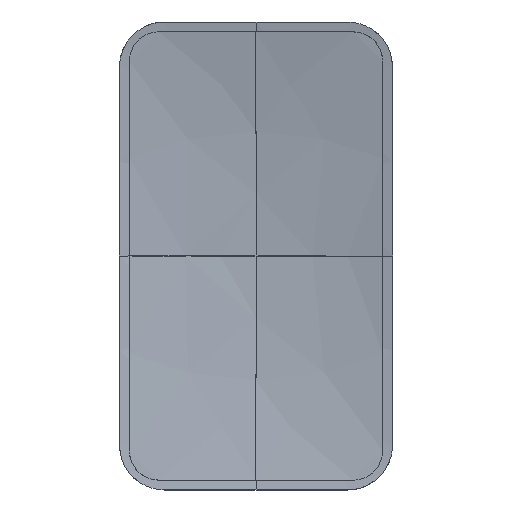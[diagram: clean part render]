
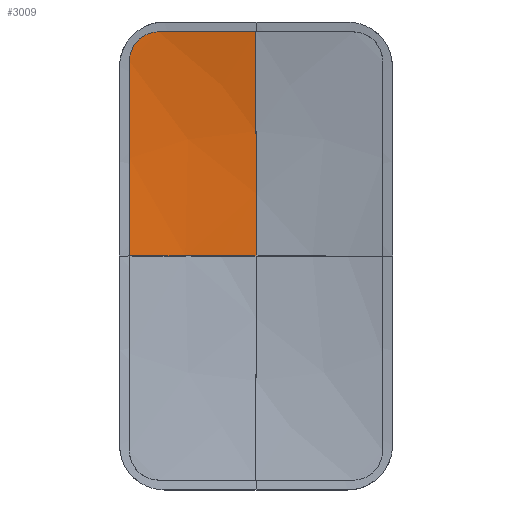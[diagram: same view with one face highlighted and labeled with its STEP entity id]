
A CAD part, front view. The second image highlights one B-rep face of the part: STEP entity #3009.
In plain terms, the highlighted free-form (B-spline) face has degree [3, 3] with [5, 5] control points.
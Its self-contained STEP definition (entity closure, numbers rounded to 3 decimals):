
#2200=CARTESIAN_POINT('',(-249.502,-111.583,
574.575));
#2201=CARTESIAN_POINT('',(-232.913,-110.631,
574.569));
#2202=CARTESIAN_POINT('',(-199.715,-108.904,
574.558));
#2203=CARTESIAN_POINT('',(-149.854,-106.852,
574.544));
#2204=CARTESIAN_POINT('',(-99.947,-105.339,
574.533));
#2205=CARTESIAN_POINT('',(-49.992,-104.364,
574.523));
#2206=CARTESIAN_POINT('',(-16.668,-104.074,
574.518));
#2207=CARTESIAN_POINT('',(0.,-104.019,
574.516));
#2209=CARTESIAN_POINT('',(0.,-104.019,
574.516));
#2210=CARTESIAN_POINT('',(0.,-101.244,
560.847));
#2211=CARTESIAN_POINT('',(0.,-95.897,
533.518));
#2212=CARTESIAN_POINT('',(0.,-88.486,
492.573));
#2213=CARTESIAN_POINT('',(0.,-81.674,
451.625));
#2214=CARTESIAN_POINT('',(0.,-75.457,
410.654));
#2215=CARTESIAN_POINT('',(0.,-69.834,
369.663));
#2216=CARTESIAN_POINT('',(0.,-64.807,
328.667));
#2217=CARTESIAN_POINT('',(0.,-60.375,
287.675));
#2218=CARTESIAN_POINT('',(0.,-56.535,
246.661));
#2219=CARTESIAN_POINT('',(0.,-53.285,
205.61));
#2220=CARTESIAN_POINT('',(0.,-50.627,
164.543));
#2221=CARTESIAN_POINT('',(0.,-48.561,
123.47));
#2222=CARTESIAN_POINT('',(0.,-47.085,
82.383));
#2223=CARTESIAN_POINT('',(0.,-46.198,
41.245));
#2224=CARTESIAN_POINT('',(0.,-46.,13.757));
#2225=CARTESIAN_POINT('',(0.,-46.,0.));
#2227=CARTESIAN_POINT('',(-324.332,-83.215,
0.));
#2228=CARTESIAN_POINT('',(-324.335,-83.284,
20.886));
#2229=CARTESIAN_POINT('',(-324.34,-83.669,
62.652));
#2230=CARTESIAN_POINT('',(-324.351,-84.99,
125.278));
#2231=CARTESIAN_POINT('',(-324.364,-87.052,
187.858));
#2232=CARTESIAN_POINT('',(-324.378,-89.854,250.378));
#2233=CARTESIAN_POINT('',(-324.395,-93.396,
312.835));
#2234=CARTESIAN_POINT('',(-324.413,-97.677,
375.207));
#2235=CARTESIAN_POINT('',(-324.433,-102.695,
437.477));
#2236=CARTESIAN_POINT('',(-324.448,-106.53,
478.917));
#2237=CARTESIAN_POINT('',(-324.456,-108.57,
499.617));
#2239=CARTESIAN_POINT('',(-324.456,-108.57,
499.617));
#2240=CARTESIAN_POINT('',(-324.456,-108.714,
501.075));
#2241=CARTESIAN_POINT('',(-324.373,-108.993,
503.986));
#2242=CARTESIAN_POINT('',(-323.992,-109.39,
508.345));
#2243=CARTESIAN_POINT('',(-323.36,-109.763,
512.667));
#2244=CARTESIAN_POINT('',(-322.475,-110.114,
516.952));
#2245=CARTESIAN_POINT('',(-321.344,-110.442,
521.17));
#2246=CARTESIAN_POINT('',(-319.968,-110.747,
525.32));
#2247=CARTESIAN_POINT('',(-318.355,-111.029,
529.377));
#2248=CARTESIAN_POINT('',(-316.506,-111.289,
533.336));
#2249=CARTESIAN_POINT('',(-314.432,-111.526,
537.178));
#2250=CARTESIAN_POINT('',(-312.138,-111.74,
540.893));
#2251=CARTESIAN_POINT('',(-309.63,-111.932,
544.469));
#2252=CARTESIAN_POINT('',(-306.922,-112.101,
547.888));
#2253=CARTESIAN_POINT('',(-304.016,-112.247,
551.148));
#2254=CARTESIAN_POINT('',(-300.931,-112.37,
554.228));
#2255=CARTESIAN_POINT('',(-297.666,-112.469,
557.127));
#2256=CARTESIAN_POINT('',(-294.245,-112.544,
559.827));
#2257=CARTESIAN_POINT('',(-290.668,-112.594,
562.326));
#2258=CARTESIAN_POINT('',(-286.956,-112.619,
564.61));
#2259=CARTESIAN_POINT('',(-283.118,-112.618,
566.675));
#2260=CARTESIAN_POINT('',(-279.164,-112.59,
568.514));
#2261=CARTESIAN_POINT('',(-275.116,-112.535,
570.117));
#2262=CARTESIAN_POINT('',(-270.976,-112.451,
571.485));
#2263=CARTESIAN_POINT('',(-266.771,-112.339,
572.608));
#2264=CARTESIAN_POINT('',(-262.501,-112.197,
573.487));
#2265=CARTESIAN_POINT('',(-258.194,-112.026,
574.114));
#2266=CARTESIAN_POINT('',(-253.852,-111.823,
574.492));
#2267=CARTESIAN_POINT('',(-250.954,-111.667,
574.575));
#2268=CARTESIAN_POINT('',(-249.502,-111.583,
574.575));
#2602=CARTESIAN_POINT('',(-324.332,-83.215,
0.));
#2603=CARTESIAN_POINT('',(-314.681,-80.971,
0.));
#2604=CARTESIAN_POINT('',(-295.33,-76.682,
0.));
#2605=CARTESIAN_POINT('',(-266.173,-70.853,
0.));
#2606=CARTESIAN_POINT('',(-236.891,-65.628,
0.));
#2607=CARTESIAN_POINT('',(-207.496,-61.011,
0.));
#2608=CARTESIAN_POINT('',(-178.004,-57.004,
0.));
#2609=CARTESIAN_POINT('',(-148.434,-53.612,
0.));
#2610=CARTESIAN_POINT('',(-118.805,-50.835,
0.));
#2611=CARTESIAN_POINT('',(-89.137,-48.676,
0.));
#2612=CARTESIAN_POINT('',(-59.441,-47.132,
0.));
#2613=CARTESIAN_POINT('',(-29.725,-46.206,
0.));
#2614=CARTESIAN_POINT('',(-9.908,-46.,0.));
#2615=CARTESIAN_POINT('',(0.,-46.,0.));
#2732=VERTEX_POINT('',#2200);
#2733=VERTEX_POINT('',#2207);
#2734=VERTEX_POINT('',#2239);
#2735=VERTEX_POINT('',#2227);
#2744=VERTEX_POINT('',#2615);
#2973=CARTESIAN_POINT('',(3.26,-46.012,
-5.777));
#2974=CARTESIAN_POINT('',(-56.18,-45.825,
-5.901));
#2975=CARTESIAN_POINT('',(-167.436,-52.455,
-6.017));
#2976=CARTESIAN_POINT('',(-277.094,-72.059,
-5.913));
#2977=CARTESIAN_POINT('',(-327.508,-83.944,
-5.816));
#2978=CARTESIAN_POINT('',(3.472,-45.757,96.225));
#2979=CARTESIAN_POINT('',(-55.943,-46.484,
96.078));
#2980=CARTESIAN_POINT('',(-167.147,-53.989,
95.922));
#2981=CARTESIAN_POINT('',(-277.011,-72.912,
95.987));
#2982=CARTESIAN_POINT('',(-327.627,-84.15,
96.065));
#2983=CARTESIAN_POINT('',(3.677,-55.756,292.038));
#2984=CARTESIAN_POINT('',(-55.694,-57.39,
291.945));
#2985=CARTESIAN_POINT('',(-166.796,-64.974,
291.888));
#2986=CARTESIAN_POINT('',(-277.05,-80.968,
292.05));
#2987=CARTESIAN_POINT('',(-328.052,-90.205,
292.173));
#2988=CARTESIAN_POINT('',(3.482,-85.976,486.807));
#2989=CARTESIAN_POINT('',(-55.844,-86.856,
486.849));
#2990=CARTESIAN_POINT('',(-166.844,-91.393,
487.04));
#2991=CARTESIAN_POINT('',(-277.492,-101.303,
487.451));
#2992=CARTESIAN_POINT('',(-328.885,-107.066,
487.691));
#2993=CARTESIAN_POINT('',(3.299,-105.167,580.174));
#2994=CARTESIAN_POINT('',(-56.005,-105.294,
580.277));
#2995=CARTESIAN_POINT('',(-166.956,-107.633,
580.583));
#2996=CARTESIAN_POINT('',(-277.796,-113.881,
581.111));
#2997=CARTESIAN_POINT('',(-329.378,-117.628,
581.406));
#2998=B_SPLINE_SURFACE_WITH_KNOTS('',3,3,((#2973,#2974,#2975,#2976,#2977),
(#2978,#2979,#2980,#2981,#2982),(#2983,#2984,#2985,#2986,#2987),(#2988,#2989,
#2990,#2991,#2992),(#2993,#2994,#2995,#2996,#2997)),.UNSPECIFIED.,.F.,.F.,.F.,
(4,1,4),(4,1,4),(-0.01,0.5,0.972),
(-0.009,0.5,0.944),.UNSPECIFIED.);
#2999=ORIENTED_EDGE('',*,*,#2790,.T.);
#3001=ORIENTED_EDGE('',*,*,#3000,.T.);
#3003=ORIENTED_EDGE('',*,*,#3002,.F.);
#3005=ORIENTED_EDGE('',*,*,#3004,.T.);
#3006=ORIENTED_EDGE('',*,*,#2966,.T.);
#3007=EDGE_LOOP('',(#2999,#3001,#3003,#3005,#3006));
#3008=FACE_OUTER_BOUND('',#3007,.F.);
#2208=B_SPLINE_CURVE_WITH_KNOTS('',3,(#2200,#2201,#2202,#2203,#2204,#2205,#2206,
#2207),.UNSPECIFIED.,.F.,.F.,(4,1,1,1,1,4),(0.,0.2,0.4,0.6,0.8,1.),
.UNSPECIFIED.);
#2226=B_SPLINE_CURVE_WITH_KNOTS('',3,(#2209,#2210,#2211,#2212,#2213,#2214,#2215,
#2216,#2217,#2218,#2219,#2220,#2221,#2222,#2223,#2224,#2225),.UNSPECIFIED.,.F.,
.F.,(4,1,1,1,1,1,1,1,1,1,1,1,1,1,4),(0.,0.071,0.143,
0.214,0.286,0.357,0.429,0.5,
0.571,0.643,0.714,0.786,
0.857,0.929,1.),.UNSPECIFIED.);
#2238=B_SPLINE_CURVE_WITH_KNOTS('',3,(#2227,#2228,#2229,#2230,#2231,#2232,#2233,
#2234,#2235,#2236,#2237),.UNSPECIFIED.,.F.,.F.,(4,1,1,1,1,1,1,1,4),(0.,
0.125,0.25,0.375,0.5,0.625,0.75,0.875,1.),.UNSPECIFIED.);
#2269=B_SPLINE_CURVE_WITH_KNOTS('',3,(#2239,#2240,#2241,#2242,#2243,#2244,#2245,
#2246,#2247,#2248,#2249,#2250,#2251,#2252,#2253,#2254,#2255,#2256,#2257,#2258,
#2259,#2260,#2261,#2262,#2263,#2264,#2265,#2266,#2267,#2268),.UNSPECIFIED.,.F.,
.F.,(4,1,1,1,1,1,1,1,1,1,1,1,1,1,1,1,1,1,1,1,1,1,1,1,1,1,1,4),(0.,
0.037,0.074,0.111,0.148,
0.185,0.222,0.259,0.296,
0.333,0.37,0.407,0.444,
0.481,0.519,0.556,0.593,
0.63,0.667,0.704,0.741,
0.778,0.815,0.852,0.889,
0.926,0.963,1.),.UNSPECIFIED.);
#2616=B_SPLINE_CURVE_WITH_KNOTS('',3,(#2602,#2603,#2604,#2605,#2606,#2607,#2608,
#2609,#2610,#2611,#2612,#2613,#2614,#2615),.UNSPECIFIED.,.F.,.F.,(4,1,1,1,1,1,1,
1,1,1,1,4),(0.,0.091,0.182,0.273,
0.364,0.455,0.545,0.636,
0.727,0.818,0.909,1.),.UNSPECIFIED.);
#2790=EDGE_CURVE('',#2732,#2733,#2208,.T.);
#2966=EDGE_CURVE('',#2734,#2732,#2269,.T.);
#3000=EDGE_CURVE('',#2733,#2744,#2226,.T.);
#3002=EDGE_CURVE('',#2735,#2744,#2616,.T.);
#3004=EDGE_CURVE('',#2735,#2734,#2238,.T.);
#3009=ADVANCED_FACE('',(#3008),#2998,.T.);
